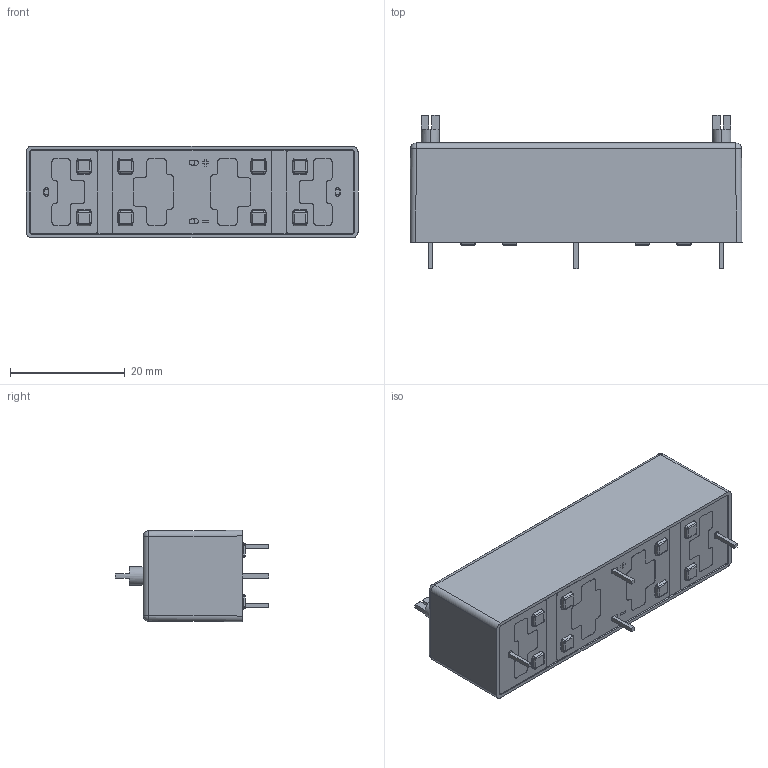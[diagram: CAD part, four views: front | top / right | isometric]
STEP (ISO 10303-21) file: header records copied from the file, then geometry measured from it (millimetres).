
FILE_DESCRIPTION (( 'STEP AP203' ), '1' );
FILE_NAME ('600 SERIES - 600 1A or B TB-1.STEP', '2025-06-30T15:26:52', ( '' ), ( '' ), 'SwSTEP 2.0', 'SolidWorks 2023', '' );
FILE_SCHEMA (( 'CONFIG_CONTROL_DESIGN' ));
Length unit declared in the file: millimetre
Products named in the file (1): 600 SERIES - 600 1A or B TB-1
Bounding box: 57.85 x 26.67 x 15.95 mm (x, y, z)
Volume: 2249 mm3; surface area: 8536.5 mm2
Topology: 40 solids, 40 shells, 921 faces, 2342 edges, 1504 vertices
Faces by surface type: plane 433, cylinder 356, bspline 96, sphere 36
Entity records: 28439 total; most frequent: CARTESIAN_POINT 7052, ORIENTED_EDGE 4684, DIRECTION 4234, EDGE_CURVE 2342, VERTEX_POINT 1504, AXIS2_PLACEMENT_3D 1454, VECTOR 1326, LINE 1326
